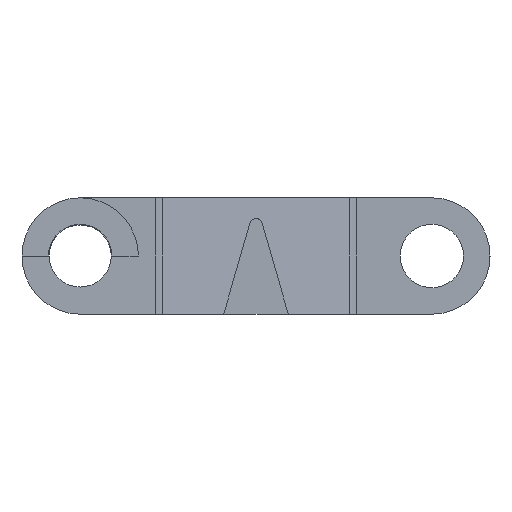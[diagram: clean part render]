
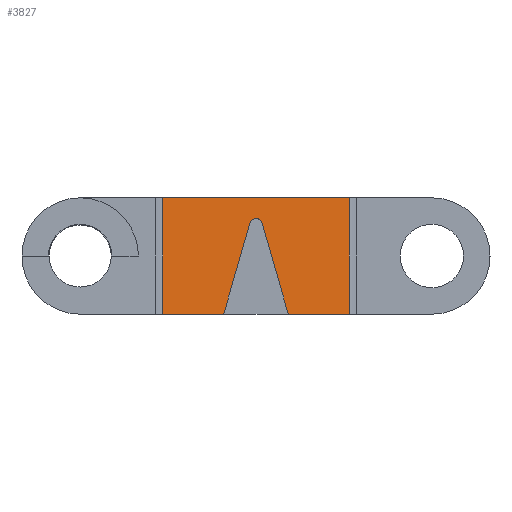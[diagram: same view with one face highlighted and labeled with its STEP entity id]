
A CAD part, front view. The second image highlights one B-rep face of the part: STEP entity #3827.
In plain terms, the highlighted planar face has unit normal (0.113, -0.994, 0).
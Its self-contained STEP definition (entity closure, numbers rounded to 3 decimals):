
#1085=CARTESIAN_POINT('Vertex',(7.219,-21.632,-4.5)) ;
#1088=CARTESIAN_POINT('Line Origine',(4.86,-21.899,-4.5)) ;
#1092=CARTESIAN_POINT('Vertex',(2.5,-22.167,-4.5)) ;
#1113=CARTESIAN_POINT('Vertex',(-2.5,-22.733,-4.5)) ;
#1116=CARTESIAN_POINT('Line Origine',(-4.86,-23.001,-4.5)) ;
#1120=CARTESIAN_POINT('Vertex',(-7.219,-23.268,-4.5)) ;
#1649=CARTESIAN_POINT('Line Origine',(-1.49,-22.619,-0.981)) ;
#1653=CARTESIAN_POINT('Vertex',(-0.481,-22.504,2.538)) ;
#1856=CARTESIAN_POINT('Vertex',(0.481,-22.396,2.538)) ;
#1860=CARTESIAN_POINT('Control Point',(-0.481,-22.504,2.538)) ;
#1861=CARTESIAN_POINT('Control Point',(-0.409,-22.496,2.787)) ;
#1862=CARTESIAN_POINT('Control Point',(-0.177,-22.47,2.992)) ;
#1863=CARTESIAN_POINT('Control Point',(0.177,-22.43,2.992)) ;
#1864=CARTESIAN_POINT('Control Point',(0.409,-22.404,2.787)) ;
#1865=CARTESIAN_POINT('Control Point',(0.481,-22.396,2.538)) ;
#2068=CARTESIAN_POINT('Line Origine',(1.49,-22.281,-0.981)) ;
#3690=CARTESIAN_POINT('Line Origine',(0.,-22.45,4.5)) ;
#3694=CARTESIAN_POINT('Vertex',(-7.219,-23.268,4.5)) ;
#3696=CARTESIAN_POINT('Vertex',(7.219,-21.632,4.5)) ;
#3802=CARTESIAN_POINT('Axis2P3D Location',(-7.5,-23.3,0.)) ;
#3807=CARTESIAN_POINT('Line Origine',(7.219,-21.632,0.)) ;
#3812=CARTESIAN_POINT('Line Origine',(-7.219,-23.268,0.)) ;
#1089=DIRECTION('Vector Direction',(0.994,0.113,0.)) ;
#1117=DIRECTION('Vector Direction',(0.994,0.113,0.)) ;
#1650=DIRECTION('Vector Direction',(0.276,0.031,0.961)) ;
#2069=DIRECTION('Vector Direction',(-0.276,-0.031,0.961)) ;
#3691=DIRECTION('Vector Direction',(0.994,0.113,0.)) ;
#3803=DIRECTION('Axis2P3D Direction',(0.113,-0.994,0.)) ;
#3804=DIRECTION('Axis2P3D XDirection',(0.994,0.113,0.)) ;
#3808=DIRECTION('Vector Direction',(0.,0.,1.)) ;
#3813=DIRECTION('Vector Direction',(0.,0.,1.)) ;
#3805=AXIS2_PLACEMENT_3D('Plane Axis2P3D',#3802,#3803,#3804) ;
#3818=ORIENTED_EDGE('',*,*,#1094,.T.) ;
#3819=ORIENTED_EDGE('',*,*,#3811,.F.) ;
#3820=ORIENTED_EDGE('',*,*,#3698,.F.) ;
#3821=ORIENTED_EDGE('',*,*,#3816,.F.) ;
#3822=ORIENTED_EDGE('',*,*,#1122,.T.) ;
#3823=ORIENTED_EDGE('',*,*,#1655,.T.) ;
#3824=ORIENTED_EDGE('',*,*,#1866,.T.) ;
#3825=ORIENTED_EDGE('',*,*,#2072,.F.) ;
#1090=VECTOR('Line Direction',#1089,1.) ;
#1118=VECTOR('Line Direction',#1117,1.) ;
#1651=VECTOR('Line Direction',#1650,1.) ;
#2070=VECTOR('Line Direction',#2069,1.) ;
#3692=VECTOR('Line Direction',#3691,1.) ;
#3809=VECTOR('Line Direction',#3808,1.) ;
#3814=VECTOR('Line Direction',#3813,1.) ;
#3827=ADVANCED_FACE('PartBody',(#3826),#3806,.T.) ;
#1859=B_SPLINE_CURVE_WITH_KNOTS('',5,(#1860,#1861,#1862,#1863,#1864,#1865),.UNSPECIFIED.,.F.,.U.,(6,6),(0.,1.833),.UNSPECIFIED.) ;
#1094=EDGE_CURVE('',#1093,#1086,#1091,.T.) ;
#1122=EDGE_CURVE('',#1121,#1114,#1119,.T.) ;
#1655=EDGE_CURVE('',#1114,#1654,#1652,.T.) ;
#1866=EDGE_CURVE('',#1654,#1857,#1859,.T.) ;
#2072=EDGE_CURVE('',#1093,#1857,#2071,.T.) ;
#3698=EDGE_CURVE('',#3695,#3697,#3693,.T.) ;
#3811=EDGE_CURVE('',#3697,#1086,#3810,.F.) ;
#3816=EDGE_CURVE('',#1121,#3695,#3815,.T.) ;
#3817=EDGE_LOOP('',(#3818,#3819,#3820,#3821,#3822,#3823,#3824,#3825)) ;
#3826=FACE_OUTER_BOUND('',#3817,.T.) ;
#1091=LINE('Line',#1088,#1090) ;
#1119=LINE('Line',#1116,#1118) ;
#1652=LINE('Line',#1649,#1651) ;
#2071=LINE('Line',#2068,#2070) ;
#3693=LINE('Line',#3690,#3692) ;
#3810=LINE('Line',#3807,#3809) ;
#3815=LINE('Line',#3812,#3814) ;
#3806=PLANE('',#3805) ;
#1086=VERTEX_POINT('',#1085) ;
#1093=VERTEX_POINT('',#1092) ;
#1114=VERTEX_POINT('',#1113) ;
#1121=VERTEX_POINT('',#1120) ;
#1654=VERTEX_POINT('',#1653) ;
#1857=VERTEX_POINT('',#1856) ;
#3695=VERTEX_POINT('',#3694) ;
#3697=VERTEX_POINT('',#3696) ;
